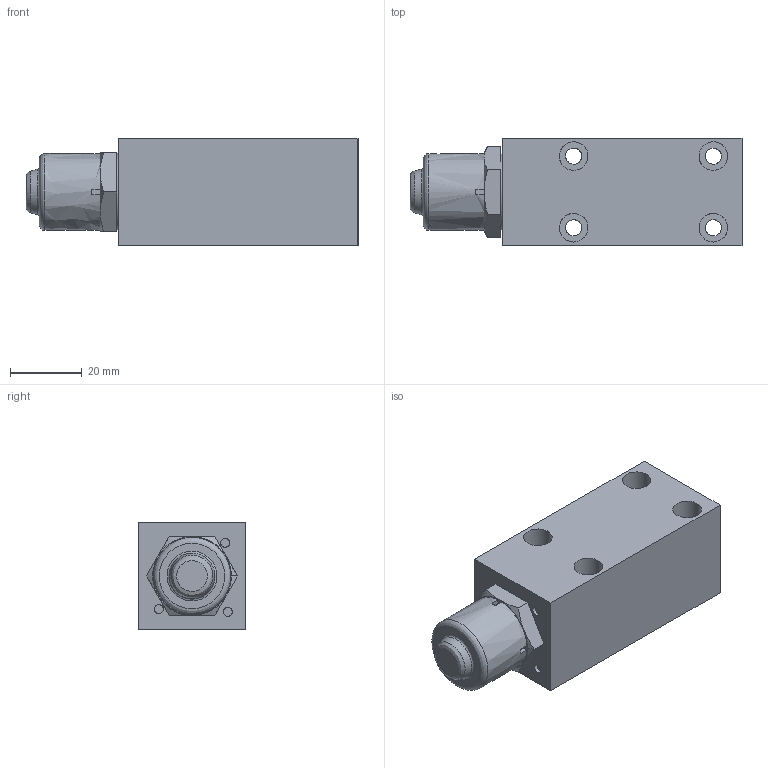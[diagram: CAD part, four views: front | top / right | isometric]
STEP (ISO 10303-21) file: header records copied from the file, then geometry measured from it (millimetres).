
FILE_DESCRIPTION((''),'2;1');
FILE_NAME('U:\Users\a.heinl\DG042.stp','2013-05-14T13:40:47',('User'), ('SDRC'),'I-DEAS Master Series 9','UNIX','Yes');
FILE_SCHEMA(('AUTOMOTIVE_DESIGN { 1 0 10303 214 1 1 1 1 }'));
Length unit declared in the file: millimetre
Products named in the file (1): 13296500(239972)
Bounding box: 92.7 x 30 x 30 mm (x, y, z)
Volume: 66092.1 mm3; surface area: 13728 mm2
Topology: 1 solids, 3 shells, 98 faces, 220 edges, 144 vertices
Faces by surface type: bspline 98
Entity records: 3360 total; most frequent: CARTESIAN_POINT 1995, ORIENTED_EDGE 440, EDGE_CURVE 220, VERTEX_POINT 144, EDGE_LOOP 126, FACE_OUTER_BOUND 98, ADVANCED_FACE 98, QUASI_UNIFORM_CURVE 55
